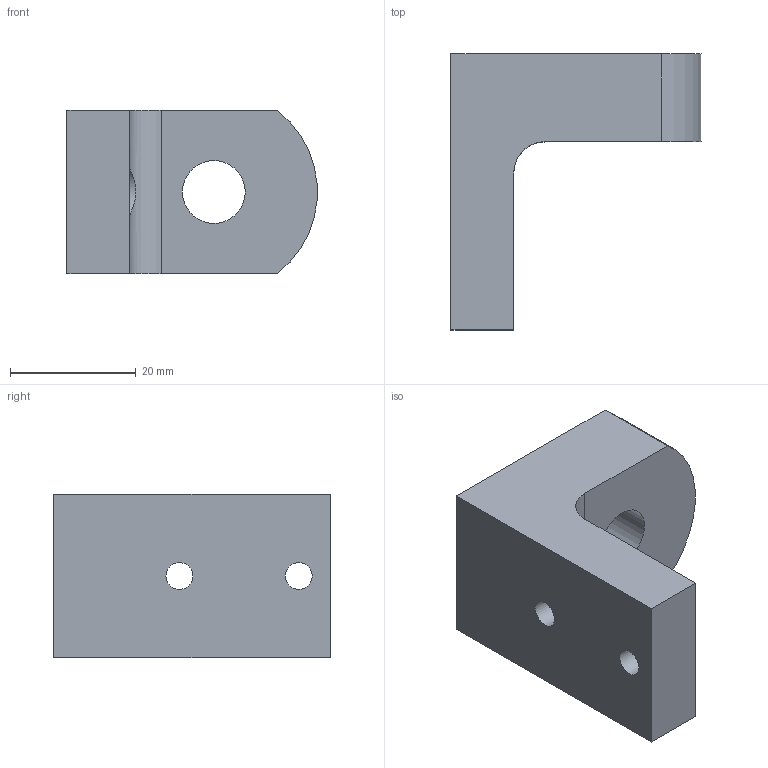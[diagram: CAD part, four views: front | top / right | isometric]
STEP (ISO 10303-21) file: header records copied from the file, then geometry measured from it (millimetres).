
FILE_DESCRIPTION(/* description */ ('Flange quick adjustment'),/* implementation_level */ '2;1');
FILE_NAME(/* name */ 'Z:\Werkstatt Server\Projekte\Atlas\Entwicklung u. Konstruktion\Konstruktion\CAD Daten\ITkPixToolV2.0\Baremodule Jig\ITPTv2.01.00.23.stp',/* time_stamp */ '2021-08-06T14:57:08+02:00',/* author */ ('Tim Kanngießer'),/* organization */ (''),/* preprocessor_version */ 'ST-DEVELOPER v18.1',/* originating_system */ 'Autodesk Inventor 2022',/* authorisation */ '');
FILE_SCHEMA (('AUTOMOTIVE_DESIGN { 1 0 10303 214 3 1 1 }'));
Length unit declared in the file: millimetre
Products named in the file (1): ITPTv2.01.00.23
Bounding box: 39.84 x 44 x 26 mm (x, y, z)
Volume: 19837.1 mm3; surface area: 6475.8 mm2
Topology: 1 solids, 1 shells, 18 faces, 42 edges, 28 vertices
Faces by surface type: plane 10, cylinder 8
Full cylindrical faces by diameter (mm): 4.3 x2, 8 x2, 10 x1, 12 x1
Entity records: 591 total; most frequent: CARTESIAN_POINT 106, DIRECTION 96, ORIENTED_EDGE 84, EDGE_CURVE 42, AXIS2_PLACEMENT_3D 36, VERTEX_POINT 28, EDGE_LOOP 26, LINE 24
